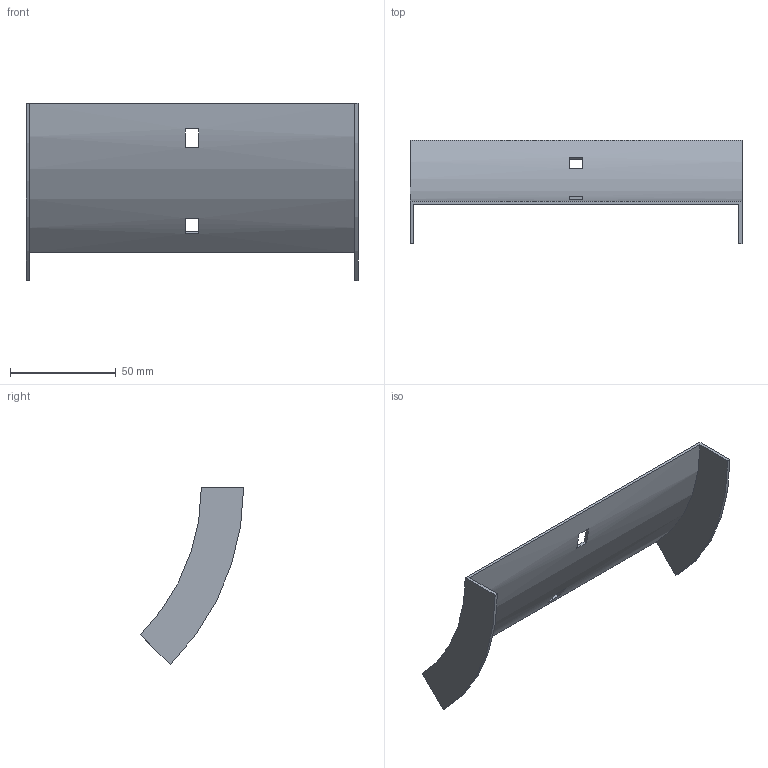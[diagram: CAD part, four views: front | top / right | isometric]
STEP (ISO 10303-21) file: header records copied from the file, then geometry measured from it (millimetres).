
FILE_DESCRIPTION (( 'STEP AP214' ), '1' );
FILE_NAME ('31N1R150.step', '2025-02-21T09:23:03', ( '' ), ( '' ), 'SwSTEP 2.0', 'SolidWorks 2023', '' );
FILE_SCHEMA (( 'AUTOMOTIVE_DESIGN' ));
Length unit declared in the file: millimetre
Products named in the file (1): 31N1R150
Bounding box: 157 x 48.85 x 83.79 mm (x, y, z)
Volume: 22941.5 mm3; surface area: 31542.5 mm2
Topology: 1 solids, 1 shells, 18 faces, 48 edges, 32 vertices
Faces by surface type: plane 14, cylinder 4
Entity records: 599 total; most frequent: DIRECTION 102, CARTESIAN_POINT 99, ORIENTED_EDGE 96, EDGE_CURVE 48, AXIS2_PLACEMENT_3D 35, LINE 32, VERTEX_POINT 32, VECTOR 32
